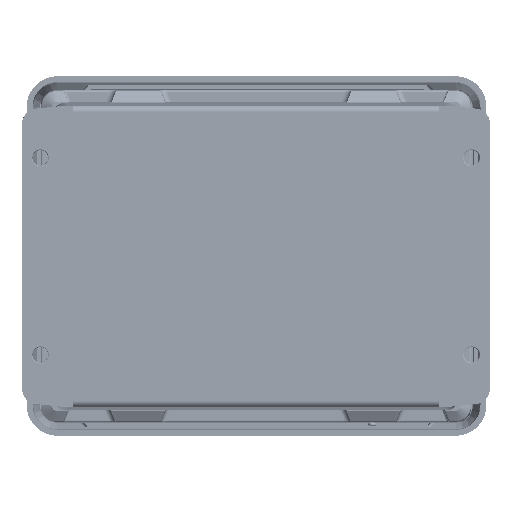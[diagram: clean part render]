
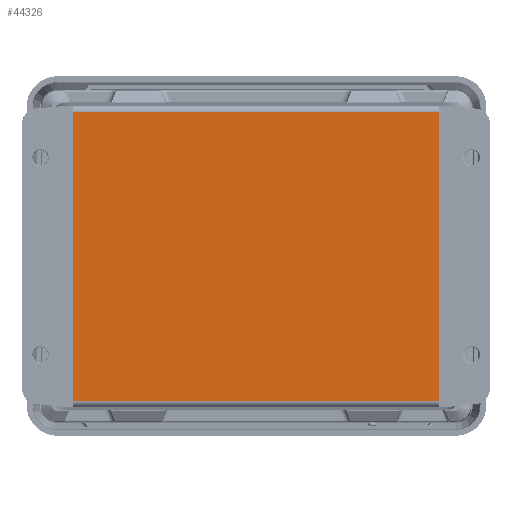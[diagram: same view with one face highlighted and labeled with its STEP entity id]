
A CAD part, front view. The second image highlights one B-rep face of the part: STEP entity #44326.
In plain terms, the highlighted planar face has unit normal (0, -1, 0).
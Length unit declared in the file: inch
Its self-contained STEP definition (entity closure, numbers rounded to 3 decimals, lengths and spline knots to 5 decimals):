
#229 = ORIENTED_EDGE ( 'NONE', *, *, #42700, .T. ) ;
#430 = CARTESIAN_POINT ( 'NONE',  ( 0., -4.27031, -2.93691 ) ) ;
#2240 = FACE_OUTER_BOUND ( 'NONE', #17112, .T. ) ;
#2907 = ORIENTED_EDGE ( 'NONE', *, *, #45791, .T. ) ;
#3334 = EDGE_CURVE ( 'NONE', #55773, #11911, #7027, .T. ) ;
#5292 = VERTEX_POINT ( 'NONE', #10934 ) ;
#7006 = ORIENTED_EDGE ( 'NONE', *, *, #26906, .T. ) ;
#7027 = LINE ( 'NONE', #430, #17416 ) ;
#7509 = VERTEX_POINT ( 'NONE', #54835 ) ;
#10934 = CARTESIAN_POINT ( 'NONE',  ( -3.72326, -4.27031, 2.93691 ) ) ;
#11911 = VERTEX_POINT ( 'NONE', #14139 ) ;
#11914 = LINE ( 'NONE', #19049, #45778 ) ;
#14139 = CARTESIAN_POINT ( 'NONE',  ( 3.72326, -4.27031, -2.93691 ) ) ;
#14638 = CARTESIAN_POINT ( 'NONE',  ( 0., -4.27031, 0. ) ) ;
#17112 = EDGE_LOOP ( 'NONE', ( #2907, #36781, #229, #7006 ) ) ;
#17416 = VECTOR ( 'NONE', #44650, 39.37008 ) ;
#19049 = CARTESIAN_POINT ( 'NONE',  ( 0., -4.27031, 2.93691 ) ) ;
#19098 = DIRECTION ( 'NONE',  ( 0., -1., 0. ) ) ;
#24572 = CARTESIAN_POINT ( 'NONE',  ( 3.72326, -4.27031, -4.18405 ) ) ;
#26194 = CARTESIAN_POINT ( 'NONE',  ( -3.72326, -4.27031, -4.18405 ) ) ;
#26906 = EDGE_CURVE ( 'NONE', #7509, #5292, #11914, .T. ) ;
#30020 = VECTOR ( 'NONE', #42313, 39.37008 ) ;
#30621 = DIRECTION ( 'NONE',  ( 0., 0., -1. ) ) ;
#31840 = LINE ( 'NONE', #26194, #53980 ) ;
#32396 = DIRECTION ( 'NONE',  ( -1., 0., 0. ) ) ;
#36781 = ORIENTED_EDGE ( 'NONE', *, *, #3334, .T. ) ;
#38567 = AXIS2_PLACEMENT_3D ( 'NONE', #14638, #19098, #49987 ) ;
#41088 = PLANE ( 'NONE',  #38567 ) ;
#42313 = DIRECTION ( 'NONE',  ( 0., 0., 1. ) ) ;
#42700 = EDGE_CURVE ( 'NONE', #11911, #7509, #53520, .T. ) ;
#44326 = ADVANCED_FACE ( 'NONE', ( #2240 ), #41088, .T. ) ;
#44650 = DIRECTION ( 'NONE',  ( 1., 0., 0. ) ) ;
#45778 = VECTOR ( 'NONE', #32396, 39.37008 ) ;
#45791 = EDGE_CURVE ( 'NONE', #5292, #55773, #31840, .T. ) ;
#49646 = CARTESIAN_POINT ( 'NONE',  ( -3.72326, -4.27031, -2.93691 ) ) ;
#49987 = DIRECTION ( 'NONE',  ( 0., 0., -1. ) ) ;
#53520 = LINE ( 'NONE', #24572, #30020 ) ;
#53980 = VECTOR ( 'NONE', #30621, 39.37008 ) ;
#54835 = CARTESIAN_POINT ( 'NONE',  ( 3.72326, -4.27031, 2.93691 ) ) ;
#55773 = VERTEX_POINT ( 'NONE', #49646 ) ;
